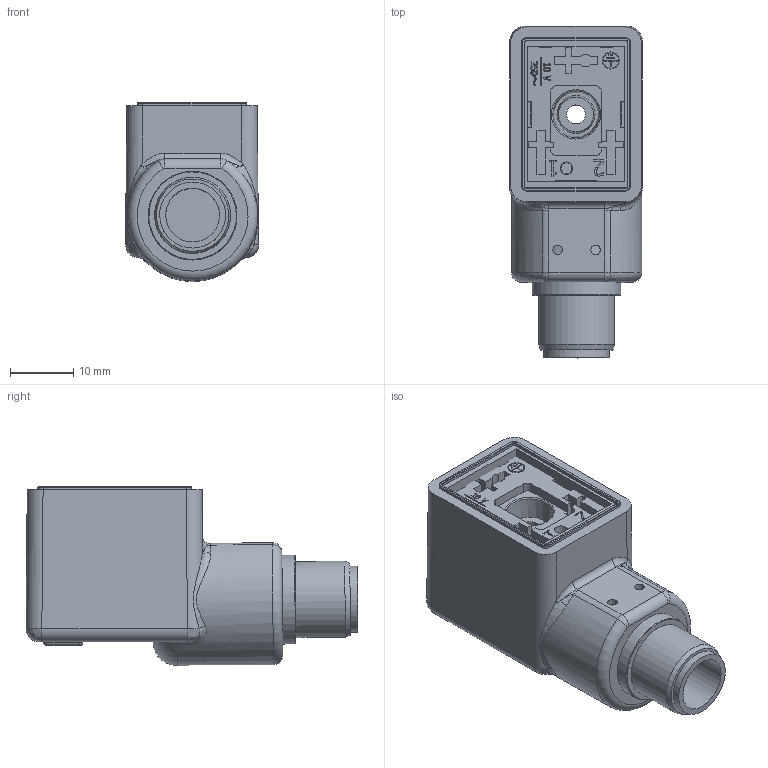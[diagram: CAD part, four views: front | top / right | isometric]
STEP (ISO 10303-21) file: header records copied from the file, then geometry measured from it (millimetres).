
FILE_DESCRIPTION((''),'2;1');
FILE_NAME('C:\Users\enrico\Desktop\Ale\File 3d catalogo\Connettori per attuatori Serie DIN\DIN B adattatore.stp','2020-07-17T14:19:59',('Tecnico2'),(''),'Autodesk Inventor 2012','Autodesk Inventor 2012','');
FILE_SCHEMA(('AUTOMOTIVE_DESIGN { 1 0 10303 214 1 1 1 1 }'));
Length unit declared in the file: millimetre
Products named in the file (5): 45339_Din forma B con adattatore M12; Corpo pvc forma B IND con adattatore M12; connettore forma B IND; 0606727NI_ghiera Mschio M12; 270105057 inserto chiave A_3poli
Assembly tree (4 placements, depth 2):
  45339_Din forma B con adattatore M12
    Corpo pvc forma B IND con adattatore M12
    connettore forma B IND
    0606727NI_ghiera Mschio M12
    270105057 inserto chiave A_3poli
Bounding box: 20.96 x 52.37 x 28.27 mm (x, y, z)
Volume: 18584.5 mm3; surface area: 12798.1 mm2
Topology: 4 solids, 4 shells, 961 faces, 2562 edges, 1648 vertices
Faces by surface type: plane 562, cylinder 181, bspline 110, sphere 44, cone 39, torus 25
Full cylindrical faces by diameter (mm): 1.5 x2, 2.41 x2, 2.6 x1, 2.7 x2, 8.2 x1, 8.5 x1, 9.4 x2, 9.5 x1, 9.65 x1, 10.4 x1, 12 x1, 14 x2, 17 x1
Entity records: 32874 total; most frequent: CARTESIAN_POINT 9702, ORIENTED_EDGE 4988, DIRECTION 4355, EDGE_CURVE 2494, VECTOR 1633, LINE 1633, VERTEX_POINT 1609, AXIS2_PLACEMENT_3D 1361
